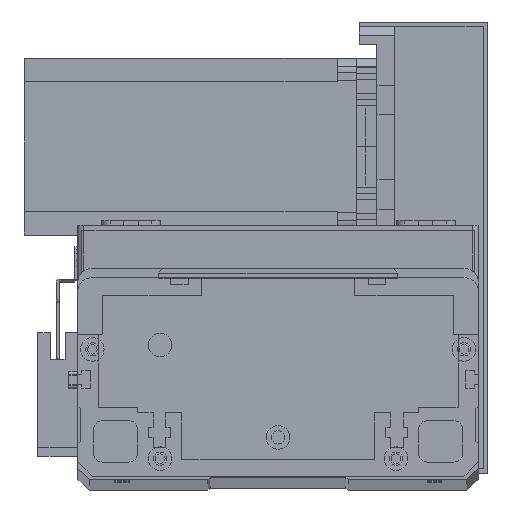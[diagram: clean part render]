
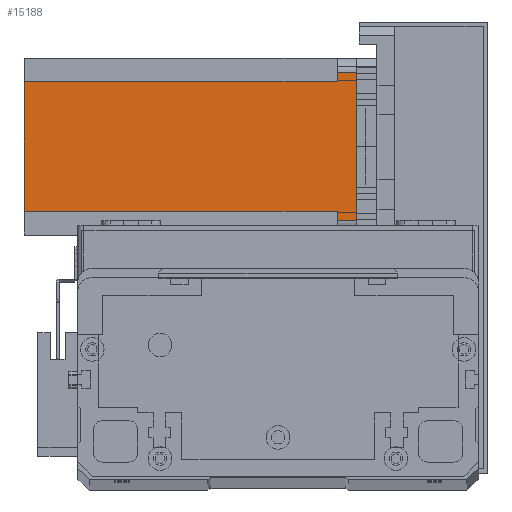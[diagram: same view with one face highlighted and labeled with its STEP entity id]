
A CAD part, top view. The second image highlights one B-rep face of the part: STEP entity #15188.
In plain terms, the highlighted planar face has unit normal (0, 0, 1) as drawn and (0, 1, 0) by its records, which use the part's own axes.
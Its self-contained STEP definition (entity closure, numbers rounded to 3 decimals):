
#178 = EDGE_CURVE ( 'NONE', #22813, #11926, #2514, .T. ) ;
#737 = CARTESIAN_POINT ( 'NONE',  ( 55., 60., -6.5 ) ) ;
#783 = LINE ( 'NONE', #28176, #13041 ) ;
#940 = ORIENTED_EDGE ( 'NONE', *, *, #2535, .F. ) ;
#1407 = CARTESIAN_POINT ( 'NONE',  ( 5., 60., -6.5 ) ) ;
#1595 = VECTOR ( 'NONE', #22390, 1000. ) ;
#2025 = LINE ( 'NONE', #24894, #26279 ) ;
#2514 = LINE ( 'NONE', #16718, #26719 ) ;
#2535 = EDGE_CURVE ( 'NONE', #22813, #10531, #24452, .T. ) ;
#2588 = ORIENTED_EDGE ( 'NONE', *, *, #28107, .T. ) ;
#2603 = CARTESIAN_POINT ( 'NONE',  ( 52., 60., -6.5 ) ) ;
#2641 = VERTEX_POINT ( 'NONE', #27511 ) ;
#2764 = CARTESIAN_POINT ( 'NONE',  ( 5., 60., 0. ) ) ;
#2971 = VERTEX_POINT ( 'NONE', #13048 ) ;
#3296 = LINE ( 'NONE', #2603, #16207 ) ;
#3533 = VERTEX_POINT ( 'NONE', #1407 ) ;
#5611 = ORIENTED_EDGE ( 'NONE', *, *, #24833, .F. ) ;
#6206 = CARTESIAN_POINT ( 'NONE',  ( 55., 60., 0. ) ) ;
#6288 = EDGE_CURVE ( 'NONE', #3533, #10531, #26583, .T. ) ;
#7047 = DIRECTION ( 'NONE',  ( 0., 0., 1. ) ) ;
#7444 = CARTESIAN_POINT ( 'NONE',  ( 52., 60., -112.5 ) ) ;
#10377 = CARTESIAN_POINT ( 'NONE',  ( 8., 60., -112.5 ) ) ;
#10531 = VERTEX_POINT ( 'NONE', #2764 ) ;
#11097 = ORIENTED_EDGE ( 'NONE', *, *, #6288, .T. ) ;
#11328 = DIRECTION ( 'NONE',  ( -1., 0., 0. ) ) ;
#11477 = CARTESIAN_POINT ( 'NONE',  ( 0., 60., 0. ) ) ;
#11926 = VERTEX_POINT ( 'NONE', #737 ) ;
#12887 = DIRECTION ( 'NONE',  ( 0., 0., -1. ) ) ;
#12932 = ORIENTED_EDGE ( 'NONE', *, *, #13011, .T. ) ;
#13011 = EDGE_CURVE ( 'NONE', #2641, #3533, #2025, .T. ) ;
#13041 = VECTOR ( 'NONE', #26102, 1000. ) ;
#13048 = CARTESIAN_POINT ( 'NONE',  ( 8., 60., -112.5 ) ) ;
#14109 = EDGE_CURVE ( 'NONE', #24085, #22669, #29209, .T. ) ;
#14254 = VECTOR ( 'NONE', #12887, 1000. ) ;
#14370 = ORIENTED_EDGE ( 'NONE', *, *, #14109, .F. ) ;
#15188 = ADVANCED_FACE ( 'NONE', ( #17350 ), #21411, .T. ) ;
#15247 = CARTESIAN_POINT ( 'NONE',  ( 52., 60., -6.5 ) ) ;
#16207 = VECTOR ( 'NONE', #17014, 1000. ) ;
#16516 = DIRECTION ( 'NONE',  ( 0., 0., -1. ) ) ;
#16547 = CARTESIAN_POINT ( 'NONE',  ( 52., 60., -112.5 ) ) ;
#16718 = CARTESIAN_POINT ( 'NONE',  ( 55., 60., -112.5 ) ) ;
#17014 = DIRECTION ( 'NONE',  ( 1., 0., 0. ) ) ;
#17300 = EDGE_LOOP ( 'NONE', ( #940, #27692, #5611, #14370, #2588, #21274, #12932, #11097 ) ) ;
#17350 = FACE_OUTER_BOUND ( 'NONE', #17300, .T. ) ;
#17403 = VECTOR ( 'NONE', #7047, 1000. ) ;
#20439 = LINE ( 'NONE', #10377, #14254 ) ;
#21274 = ORIENTED_EDGE ( 'NONE', *, *, #25581, .F. ) ;
#21285 = DIRECTION ( 'NONE',  ( 0., 0., 1. ) ) ;
#21330 = DIRECTION ( 'NONE',  ( 0., 1., 0. ) ) ;
#21371 = CARTESIAN_POINT ( 'NONE',  ( 0., 60., -112.5 ) ) ;
#21380 = CARTESIAN_POINT ( 'NONE',  ( 5., 60., -112.5 ) ) ;
#21411 = PLANE ( 'NONE',  #25898 ) ;
#22390 = DIRECTION ( 'NONE',  ( 0., 0., 1. ) ) ;
#22669 = VERTEX_POINT ( 'NONE', #15247 ) ;
#22813 = VERTEX_POINT ( 'NONE', #6206 ) ;
#24085 = VERTEX_POINT ( 'NONE', #16547 ) ;
#24452 = LINE ( 'NONE', #11477, #29507 ) ;
#24833 = EDGE_CURVE ( 'NONE', #22669, #11926, #3296, .T. ) ;
#24857 = DIRECTION ( 'NONE',  ( -1., 0., 0. ) ) ;
#24894 = CARTESIAN_POINT ( 'NONE',  ( 8., 60., -6.5 ) ) ;
#25581 = EDGE_CURVE ( 'NONE', #2641, #2971, #20439, .T. ) ;
#25898 = AXIS2_PLACEMENT_3D ( 'NONE', #21371, #21330, #21285 ) ;
#26102 = DIRECTION ( 'NONE',  ( -1., 0., 0. ) ) ;
#26279 = VECTOR ( 'NONE', #24857, 1000. ) ;
#26583 = LINE ( 'NONE', #21380, #1595 ) ;
#26719 = VECTOR ( 'NONE', #16516, 1000. ) ;
#27511 = CARTESIAN_POINT ( 'NONE',  ( 8., 60., -6.5 ) ) ;
#27692 = ORIENTED_EDGE ( 'NONE', *, *, #178, .T. ) ;
#28107 = EDGE_CURVE ( 'NONE', #24085, #2971, #783, .T. ) ;
#28176 = CARTESIAN_POINT ( 'NONE',  ( 0., 60., -112.5 ) ) ;
#29209 = LINE ( 'NONE', #7444, #17403 ) ;
#29507 = VECTOR ( 'NONE', #11328, 1000. ) ;
